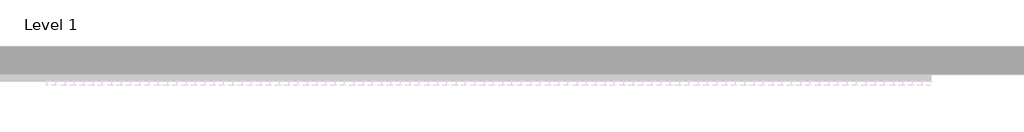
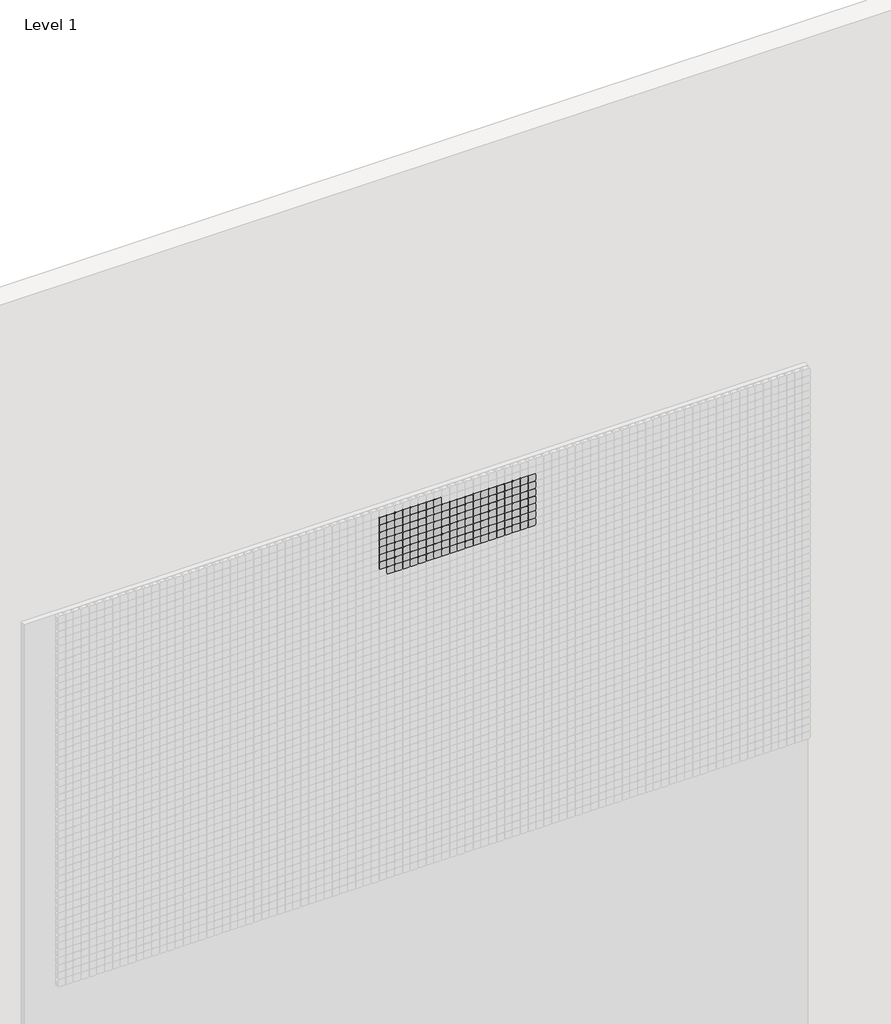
# One storey, part 35 of 71: 147 proxies.
"""IFC4 building model written with IfcOpenShell, lengths in millimetres."""

from ifc_helpers import new_model, si_unit, origin, place, context, project, spatial, transform, mapped, element, save
from components import generic_models_afde289c

model = new_model("IFC4")

# Units and contexts
model_context = context("Model", 3, world=origin())
ifc_project = project(units=[si_unit("LENGTHUNIT", "METRE", prefix="MILLI")], contexts=[model_context])

# Site, building, storey
site = spatial("IfcSite", under=ifc_project)
building = spatial("IfcBuilding", under=site)
storey = spatial("IfcBuildingStorey", under=building, Name="Level 1", Elevation=0.0)

# Proxies
placement = place(None, origin())
generic_models_shape = generic_models_afde289c(model_context)
element("IfcBuildingElementProxy", 1, Name="Pixel_M : Pixel_M", ObjectType="Pixel_M : Pixel_M", at=placement, inside=storey, context=model_context, shape_type="MappedRepresentation", body=[
    mapped(generic_models_shape, transform((7362.4280941, -75.0, 5916.3566215), x_axis=(1.0, 0.0, 0.0), y_axis=(0.0, 0.0, 1.0), z_axis=(0.0, -1.0, 0.0))),
])
element("IfcBuildingElementProxy", 2, Name="Pixel_M : Pixel_M", ObjectType="Pixel_M : Pixel_M", at=placement, inside=storey, context=model_context, shape_type="MappedRepresentation", body=[
    mapped(generic_models_shape, transform((7312.4280941, -75.0, 5916.3566215), x_axis=(1.0, 0.0, 0.0), y_axis=(0.0, 0.0, 1.0), z_axis=(0.0, -1.0, 0.0))),
])
element("IfcBuildingElementProxy", 3, Name="Pixel_M : Pixel_M", ObjectType="Pixel_M : Pixel_M", at=placement, inside=storey, context=model_context, shape_type="MappedRepresentation", body=[
    mapped(generic_models_shape, transform((7262.4280941, -75.0, 5916.3566215), x_axis=(1.0, 0.0, 0.0), y_axis=(0.0, 0.0, 1.0), z_axis=(0.0, -1.0, 0.0))),
])
element("IfcBuildingElementProxy", 4, Name="Pixel_M : Pixel_M", ObjectType="Pixel_M : Pixel_M", at=placement, inside=storey, context=model_context, shape_type="MappedRepresentation", body=[
    mapped(generic_models_shape, transform((7212.4280941, -75.0, 5916.3566215), x_axis=(1.0, 0.0, 0.0), y_axis=(0.0, 0.0, 1.0), z_axis=(0.0, -1.0, 0.0))),
])
element("IfcBuildingElementProxy", 5, Name="Pixel_M : Pixel_M", ObjectType="Pixel_M : Pixel_M", at=placement, inside=storey, context=model_context, shape_type="MappedRepresentation", body=[
    mapped(generic_models_shape, transform((7162.4280941, -75.0, 5916.3566215), x_axis=(1.0, 0.0, 0.0), y_axis=(0.0, 0.0, 1.0), z_axis=(0.0, -1.0, 0.0))),
])
element("IfcBuildingElementProxy", 6, Name="Pixel_M : Pixel_M", ObjectType="Pixel_M : Pixel_M", at=placement, inside=storey, context=model_context, shape_type="MappedRepresentation", body=[
    mapped(generic_models_shape, transform((7112.4280941, -75.0, 5916.3566215), x_axis=(1.0, 0.0, 0.0), y_axis=(0.0, 0.0, 1.0), z_axis=(0.0, -1.0, 0.0))),
])
element("IfcBuildingElementProxy", 7, Name="Pixel_M : Pixel_M", ObjectType="Pixel_M : Pixel_M", at=placement, inside=storey, context=model_context, shape_type="MappedRepresentation", body=[
    mapped(generic_models_shape, transform((7062.4280941, -75.0, 5916.3566215), x_axis=(1.0, 0.0, 0.0), y_axis=(0.0, 0.0, 1.0), z_axis=(0.0, -1.0, 0.0))),
])
element("IfcBuildingElementProxy", 8, Name="Pixel_M : Pixel_M", ObjectType="Pixel_M : Pixel_M", at=placement, inside=storey, context=model_context, shape_type="MappedRepresentation", body=[
    mapped(generic_models_shape, transform((7012.4280941, -75.0, 5916.3566215), x_axis=(1.0, 0.0, 0.0), y_axis=(0.0, 0.0, 1.0), z_axis=(0.0, -1.0, 0.0))),
])
element("IfcBuildingElementProxy", 9, Name="Pixel_M : Pixel_M", ObjectType="Pixel_M : Pixel_M", at=placement, inside=storey, context=model_context, shape_type="MappedRepresentation", body=[
    mapped(generic_models_shape, transform((7962.4280941, -75.0, 5866.3566215), x_axis=(1.0, 0.0, 0.0), y_axis=(0.0, 0.0, 1.0), z_axis=(0.0, -1.0, 0.0))),
])
element("IfcBuildingElementProxy", 10, Name="Pixel_M : Pixel_M", ObjectType="Pixel_M : Pixel_M", at=placement, inside=storey, context=model_context, shape_type="MappedRepresentation", body=[
    mapped(generic_models_shape, transform((7912.4280941, -75.0, 5866.3566215), x_axis=(1.0, 0.0, 0.0), y_axis=(0.0, 0.0, 1.0), z_axis=(0.0, -1.0, 0.0))),
])
element("IfcBuildingElementProxy", 11, Name="Pixel_M : Pixel_M", ObjectType="Pixel_M : Pixel_M", at=placement, inside=storey, context=model_context, shape_type="MappedRepresentation", body=[
    mapped(generic_models_shape, transform((7862.4280941, -75.0, 5866.3566215), x_axis=(1.0, 0.0, 0.0), y_axis=(0.0, 0.0, 1.0), z_axis=(0.0, -1.0, 0.0))),
])
element("IfcBuildingElementProxy", 12, Name="Pixel_M : Pixel_M", ObjectType="Pixel_M : Pixel_M", at=placement, inside=storey, context=model_context, shape_type="MappedRepresentation", body=[
    mapped(generic_models_shape, transform((7812.4280941, -75.0, 5866.3566215), x_axis=(1.0, 0.0, 0.0), y_axis=(0.0, 0.0, 1.0), z_axis=(0.0, -1.0, 0.0))),
])
element("IfcBuildingElementProxy", 13, Name="Pixel_M : Pixel_M", ObjectType="Pixel_M : Pixel_M", at=placement, inside=storey, context=model_context, shape_type="MappedRepresentation", body=[
    mapped(generic_models_shape, transform((7762.4280941, -75.0, 5866.3566215), x_axis=(1.0, 0.0, 0.0), y_axis=(0.0, 0.0, 1.0), z_axis=(0.0, -1.0, 0.0))),
])
element("IfcBuildingElementProxy", 14, Name="Pixel_M : Pixel_M", ObjectType="Pixel_M : Pixel_M", at=placement, inside=storey, context=model_context, shape_type="MappedRepresentation", body=[
    mapped(generic_models_shape, transform((7712.4280941, -75.0, 5866.3566215), x_axis=(1.0, 0.0, 0.0), y_axis=(0.0, 0.0, 1.0), z_axis=(0.0, -1.0, 0.0))),
])
element("IfcBuildingElementProxy", 15, Name="Pixel_M : Pixel_M", ObjectType="Pixel_M : Pixel_M", at=placement, inside=storey, context=model_context, shape_type="MappedRepresentation", body=[
    mapped(generic_models_shape, transform((7662.4280941, -75.0, 5866.3566215), x_axis=(1.0, 0.0, 0.0), y_axis=(0.0, 0.0, 1.0), z_axis=(0.0, -1.0, 0.0))),
])
element("IfcBuildingElementProxy", 16, Name="Pixel_M : Pixel_M", ObjectType="Pixel_M : Pixel_M", at=placement, inside=storey, context=model_context, shape_type="MappedRepresentation", body=[
    mapped(generic_models_shape, transform((7612.4280941, -75.0, 5866.3566215), x_axis=(1.0, 0.0, 0.0), y_axis=(0.0, 0.0, 1.0), z_axis=(0.0, -1.0, 0.0))),
])
element("IfcBuildingElementProxy", 17, Name="Pixel_M : Pixel_M", ObjectType="Pixel_M : Pixel_M", at=placement, inside=storey, context=model_context, shape_type="MappedRepresentation", body=[
    mapped(generic_models_shape, transform((7562.4280941, -75.0, 5866.3566215), x_axis=(1.0, 0.0, 0.0), y_axis=(0.0, 0.0, 1.0), z_axis=(0.0, -1.0, 0.0))),
])
element("IfcBuildingElementProxy", 18, Name="Pixel_M : Pixel_M", ObjectType="Pixel_M : Pixel_M", at=placement, inside=storey, context=model_context, shape_type="MappedRepresentation", body=[
    mapped(generic_models_shape, transform((7512.4280941, -75.0, 5866.3566215), x_axis=(1.0, 0.0, 0.0), y_axis=(0.0, 0.0, 1.0), z_axis=(0.0, -1.0, 0.0))),
])
element("IfcBuildingElementProxy", 19, Name="Pixel_M : Pixel_M", ObjectType="Pixel_M : Pixel_M", at=placement, inside=storey, context=model_context, shape_type="MappedRepresentation", body=[
    mapped(generic_models_shape, transform((7462.4280941, -75.0, 5866.3566215), x_axis=(1.0, 0.0, 0.0), y_axis=(0.0, 0.0, 1.0), z_axis=(0.0, -1.0, 0.0))),
])
element("IfcBuildingElementProxy", 20, Name="Pixel_M : Pixel_M", ObjectType="Pixel_M : Pixel_M", at=placement, inside=storey, context=model_context, shape_type="MappedRepresentation", body=[
    mapped(generic_models_shape, transform((7412.4280941, -75.0, 5866.3566215), x_axis=(1.0, 0.0, 0.0), y_axis=(0.0, 0.0, 1.0), z_axis=(0.0, -1.0, 0.0))),
])
element("IfcBuildingElementProxy", 21, Name="Pixel_M : Pixel_M", ObjectType="Pixel_M : Pixel_M", at=placement, inside=storey, context=model_context, shape_type="MappedRepresentation", body=[
    mapped(generic_models_shape, transform((7362.4280941, -75.0, 5866.3566215), x_axis=(1.0, 0.0, 0.0), y_axis=(0.0, 0.0, 1.0), z_axis=(0.0, -1.0, 0.0))),
])
element("IfcBuildingElementProxy", 22, Name="Pixel_M : Pixel_M", ObjectType="Pixel_M : Pixel_M", at=placement, inside=storey, context=model_context, shape_type="MappedRepresentation", body=[
    mapped(generic_models_shape, transform((7312.4280941, -75.0, 5866.3566215), x_axis=(1.0, 0.0, 0.0), y_axis=(0.0, 0.0, 1.0), z_axis=(0.0, -1.0, 0.0))),
])
element("IfcBuildingElementProxy", 23, Name="Pixel_M : Pixel_M", ObjectType="Pixel_M : Pixel_M", at=placement, inside=storey, context=model_context, shape_type="MappedRepresentation", body=[
    mapped(generic_models_shape, transform((7262.4280941, -75.0, 5866.3566215), x_axis=(1.0, 0.0, 0.0), y_axis=(0.0, 0.0, 1.0), z_axis=(0.0, -1.0, 0.0))),
])
element("IfcBuildingElementProxy", 24, Name="Pixel_M : Pixel_M", ObjectType="Pixel_M : Pixel_M", at=placement, inside=storey, context=model_context, shape_type="MappedRepresentation", body=[
    mapped(generic_models_shape, transform((7212.4280941, -75.0, 5866.3566215), x_axis=(1.0, 0.0, 0.0), y_axis=(0.0, 0.0, 1.0), z_axis=(0.0, -1.0, 0.0))),
])
element("IfcBuildingElementProxy", 25, Name="Pixel_M : Pixel_M", ObjectType="Pixel_M : Pixel_M", at=placement, inside=storey, context=model_context, shape_type="MappedRepresentation", body=[
    mapped(generic_models_shape, transform((7162.4280941, -75.0, 5866.3566215), x_axis=(1.0, 0.0, 0.0), y_axis=(0.0, 0.0, 1.0), z_axis=(0.0, -1.0, 0.0))),
])
element("IfcBuildingElementProxy", 26, Name="Pixel_M : Pixel_M", ObjectType="Pixel_M : Pixel_M", at=placement, inside=storey, context=model_context, shape_type="MappedRepresentation", body=[
    mapped(generic_models_shape, transform((7112.4280941, -75.0, 5866.3566215), x_axis=(1.0, 0.0, 0.0), y_axis=(0.0, 0.0, 1.0), z_axis=(0.0, -1.0, 0.0))),
])
element("IfcBuildingElementProxy", 27, Name="Pixel_M : Pixel_M", ObjectType="Pixel_M : Pixel_M", at=placement, inside=storey, context=model_context, shape_type="MappedRepresentation", body=[
    mapped(generic_models_shape, transform((7062.4280941, -75.0, 5866.3566215), x_axis=(1.0, 0.0, 0.0), y_axis=(0.0, 0.0, 1.0), z_axis=(0.0, -1.0, 0.0))),
])
element("IfcBuildingElementProxy", 28, Name="Pixel_M : Pixel_M", ObjectType="Pixel_M : Pixel_M", at=placement, inside=storey, context=model_context, shape_type="MappedRepresentation", body=[
    mapped(generic_models_shape, transform((7012.4280941, -75.0, 5866.3566215), x_axis=(1.0, 0.0, 0.0), y_axis=(0.0, 0.0, 1.0), z_axis=(0.0, -1.0, 0.0))),
])
element("IfcBuildingElementProxy", 29, Name="Pixel_M : Pixel_M", ObjectType="Pixel_M : Pixel_M", at=placement, inside=storey, context=model_context, shape_type="MappedRepresentation", body=[
    mapped(generic_models_shape, transform((7962.4280941, -75.0, 5816.3566215), x_axis=(1.0, 0.0, 0.0), y_axis=(0.0, 0.0, 1.0), z_axis=(0.0, -1.0, 0.0))),
])
element("IfcBuildingElementProxy", 30, Name="Pixel_M : Pixel_M", ObjectType="Pixel_M : Pixel_M", at=placement, inside=storey, context=model_context, shape_type="MappedRepresentation", body=[
    mapped(generic_models_shape, transform((7912.4280941, -75.0, 5816.3566215), x_axis=(1.0, 0.0, 0.0), y_axis=(0.0, 0.0, 1.0), z_axis=(0.0, -1.0, 0.0))),
])
element("IfcBuildingElementProxy", 31, Name="Pixel_M : Pixel_M", ObjectType="Pixel_M : Pixel_M", at=placement, inside=storey, context=model_context, shape_type="MappedRepresentation", body=[
    mapped(generic_models_shape, transform((7862.4280941, -75.0, 5816.3566215), x_axis=(1.0, 0.0, 0.0), y_axis=(0.0, 0.0, 1.0), z_axis=(0.0, -1.0, 0.0))),
])
element("IfcBuildingElementProxy", 32, Name="Pixel_M : Pixel_M", ObjectType="Pixel_M : Pixel_M", at=placement, inside=storey, context=model_context, shape_type="MappedRepresentation", body=[
    mapped(generic_models_shape, transform((7812.4280941, -75.0, 5816.3566215), x_axis=(1.0, 0.0, 0.0), y_axis=(0.0, 0.0, 1.0), z_axis=(0.0, -1.0, 0.0))),
])
element("IfcBuildingElementProxy", 33, Name="Pixel_M : Pixel_M", ObjectType="Pixel_M : Pixel_M", at=placement, inside=storey, context=model_context, shape_type="MappedRepresentation", body=[
    mapped(generic_models_shape, transform((7762.4280941, -75.0, 5816.3566215), x_axis=(1.0, 0.0, 0.0), y_axis=(0.0, 0.0, 1.0), z_axis=(0.0, -1.0, 0.0))),
])
element("IfcBuildingElementProxy", 34, Name="Pixel_M : Pixel_M", ObjectType="Pixel_M : Pixel_M", at=placement, inside=storey, context=model_context, shape_type="MappedRepresentation", body=[
    mapped(generic_models_shape, transform((7712.4280941, -75.0, 5816.3566215), x_axis=(1.0, 0.0, 0.0), y_axis=(0.0, 0.0, 1.0), z_axis=(0.0, -1.0, 0.0))),
])
element("IfcBuildingElementProxy", 35, Name="Pixel_M : Pixel_M", ObjectType="Pixel_M : Pixel_M", at=placement, inside=storey, context=model_context, shape_type="MappedRepresentation", body=[
    mapped(generic_models_shape, transform((7662.4280941, -75.0, 5816.3566215), x_axis=(1.0, 0.0, 0.0), y_axis=(0.0, 0.0, 1.0), z_axis=(0.0, -1.0, 0.0))),
])
element("IfcBuildingElementProxy", 36, Name="Pixel_M : Pixel_M", ObjectType="Pixel_M : Pixel_M", at=placement, inside=storey, context=model_context, shape_type="MappedRepresentation", body=[
    mapped(generic_models_shape, transform((7612.4280941, -75.0, 5816.3566215), x_axis=(1.0, 0.0, 0.0), y_axis=(0.0, 0.0, 1.0), z_axis=(0.0, -1.0, 0.0))),
])
element("IfcBuildingElementProxy", 37, Name="Pixel_M : Pixel_M", ObjectType="Pixel_M : Pixel_M", at=placement, inside=storey, context=model_context, shape_type="MappedRepresentation", body=[
    mapped(generic_models_shape, transform((7562.4280941, -75.0, 5816.3566215), x_axis=(1.0, 0.0, 0.0), y_axis=(0.0, 0.0, 1.0), z_axis=(0.0, -1.0, 0.0))),
])
element("IfcBuildingElementProxy", 38, Name="Pixel_M : Pixel_M", ObjectType="Pixel_M : Pixel_M", at=placement, inside=storey, context=model_context, shape_type="MappedRepresentation", body=[
    mapped(generic_models_shape, transform((7512.4280941, -75.0, 5816.3566215), x_axis=(1.0, 0.0, 0.0), y_axis=(0.0, 0.0, 1.0), z_axis=(0.0, -1.0, 0.0))),
])
element("IfcBuildingElementProxy", 39, Name="Pixel_M : Pixel_M", ObjectType="Pixel_M : Pixel_M", at=placement, inside=storey, context=model_context, shape_type="MappedRepresentation", body=[
    mapped(generic_models_shape, transform((7462.4280941, -75.0, 5816.3566215), x_axis=(1.0, 0.0, 0.0), y_axis=(0.0, 0.0, 1.0), z_axis=(0.0, -1.0, 0.0))),
])
element("IfcBuildingElementProxy", 40, Name="Pixel_M : Pixel_M", ObjectType="Pixel_M : Pixel_M", at=placement, inside=storey, context=model_context, shape_type="MappedRepresentation", body=[
    mapped(generic_models_shape, transform((7412.4280941, -75.0, 5816.3566215), x_axis=(1.0, 0.0, 0.0), y_axis=(0.0, 0.0, 1.0), z_axis=(0.0, -1.0, 0.0))),
])
element("IfcBuildingElementProxy", 41, Name="Pixel_M : Pixel_M", ObjectType="Pixel_M : Pixel_M", at=placement, inside=storey, context=model_context, shape_type="MappedRepresentation", body=[
    mapped(generic_models_shape, transform((7362.4280941, -75.0, 5816.3566215), x_axis=(1.0, 0.0, 0.0), y_axis=(0.0, 0.0, 1.0), z_axis=(0.0, -1.0, 0.0))),
])
element("IfcBuildingElementProxy", 42, Name="Pixel_M : Pixel_M", ObjectType="Pixel_M : Pixel_M", at=placement, inside=storey, context=model_context, shape_type="MappedRepresentation", body=[
    mapped(generic_models_shape, transform((7312.4280941, -75.0, 5816.3566215), x_axis=(1.0, 0.0, 0.0), y_axis=(0.0, 0.0, 1.0), z_axis=(0.0, -1.0, 0.0))),
])
element("IfcBuildingElementProxy", 43, Name="Pixel_M : Pixel_M", ObjectType="Pixel_M : Pixel_M", at=placement, inside=storey, context=model_context, shape_type="MappedRepresentation", body=[
    mapped(generic_models_shape, transform((7262.4280941, -75.0, 5816.3566215), x_axis=(1.0, 0.0, 0.0), y_axis=(0.0, 0.0, 1.0), z_axis=(0.0, -1.0, 0.0))),
])
element("IfcBuildingElementProxy", 44, Name="Pixel_M : Pixel_M", ObjectType="Pixel_M : Pixel_M", at=placement, inside=storey, context=model_context, shape_type="MappedRepresentation", body=[
    mapped(generic_models_shape, transform((7212.4280941, -75.0, 5816.3566215), x_axis=(1.0, 0.0, 0.0), y_axis=(0.0, 0.0, 1.0), z_axis=(0.0, -1.0, 0.0))),
])
element("IfcBuildingElementProxy", 45, Name="Pixel_M : Pixel_M", ObjectType="Pixel_M : Pixel_M", at=placement, inside=storey, context=model_context, shape_type="MappedRepresentation", body=[
    mapped(generic_models_shape, transform((7162.4280941, -75.0, 5816.3566215), x_axis=(1.0, 0.0, 0.0), y_axis=(0.0, 0.0, 1.0), z_axis=(0.0, -1.0, 0.0))),
])
element("IfcBuildingElementProxy", 46, Name="Pixel_M : Pixel_M", ObjectType="Pixel_M : Pixel_M", at=placement, inside=storey, context=model_context, shape_type="MappedRepresentation", body=[
    mapped(generic_models_shape, transform((7112.4280941, -75.0, 5816.3566215), x_axis=(1.0, 0.0, 0.0), y_axis=(0.0, 0.0, 1.0), z_axis=(0.0, -1.0, 0.0))),
])
element("IfcBuildingElementProxy", 47, Name="Pixel_M : Pixel_M", ObjectType="Pixel_M : Pixel_M", at=placement, inside=storey, context=model_context, shape_type="MappedRepresentation", body=[
    mapped(generic_models_shape, transform((7062.4280941, -75.0, 5816.3566215), x_axis=(1.0, 0.0, 0.0), y_axis=(0.0, 0.0, 1.0), z_axis=(0.0, -1.0, 0.0))),
])
element("IfcBuildingElementProxy", 48, Name="Pixel_M : Pixel_M", ObjectType="Pixel_M : Pixel_M", at=placement, inside=storey, context=model_context, shape_type="MappedRepresentation", body=[
    mapped(generic_models_shape, transform((7012.4280941, -75.0, 5816.3566215), x_axis=(1.0, 0.0, 0.0), y_axis=(0.0, 0.0, 1.0), z_axis=(0.0, -1.0, 0.0))),
])
element("IfcBuildingElementProxy", 49, Name="Pixel_M : Pixel_M", ObjectType="Pixel_M : Pixel_M", at=placement, inside=storey, context=model_context, shape_type="MappedRepresentation", body=[
    mapped(generic_models_shape, transform((7962.4280941, -75.0, 5766.3566215), x_axis=(1.0, 0.0, 0.0), y_axis=(0.0, 0.0, 1.0), z_axis=(0.0, -1.0, 0.0))),
])
element("IfcBuildingElementProxy", 50, Name="Pixel_M : Pixel_M", ObjectType="Pixel_M : Pixel_M", at=placement, inside=storey, context=model_context, shape_type="MappedRepresentation", body=[
    mapped(generic_models_shape, transform((7912.4280941, -75.0, 5766.3566215), x_axis=(1.0, 0.0, 0.0), y_axis=(0.0, 0.0, 1.0), z_axis=(0.0, -1.0, 0.0))),
])
element("IfcBuildingElementProxy", 51, Name="Pixel_M : Pixel_M", ObjectType="Pixel_M : Pixel_M", at=placement, inside=storey, context=model_context, shape_type="MappedRepresentation", body=[
    mapped(generic_models_shape, transform((7862.4280941, -75.0, 5766.3566215), x_axis=(1.0, 0.0, 0.0), y_axis=(0.0, 0.0, 1.0), z_axis=(0.0, -1.0, 0.0))),
])
element("IfcBuildingElementProxy", 52, Name="Pixel_M : Pixel_M", ObjectType="Pixel_M : Pixel_M", at=placement, inside=storey, context=model_context, shape_type="MappedRepresentation", body=[
    mapped(generic_models_shape, transform((7812.4280941, -75.0, 5766.3566215), x_axis=(1.0, 0.0, 0.0), y_axis=(0.0, 0.0, 1.0), z_axis=(0.0, -1.0, 0.0))),
])
element("IfcBuildingElementProxy", 53, Name="Pixel_M : Pixel_M", ObjectType="Pixel_M : Pixel_M", at=placement, inside=storey, context=model_context, shape_type="MappedRepresentation", body=[
    mapped(generic_models_shape, transform((7762.4280941, -75.0, 5766.3566215), x_axis=(1.0, 0.0, 0.0), y_axis=(0.0, 0.0, 1.0), z_axis=(0.0, -1.0, 0.0))),
])
element("IfcBuildingElementProxy", 54, Name="Pixel_M : Pixel_M", ObjectType="Pixel_M : Pixel_M", at=placement, inside=storey, context=model_context, shape_type="MappedRepresentation", body=[
    mapped(generic_models_shape, transform((7712.4280941, -75.0, 5766.3566215), x_axis=(1.0, 0.0, 0.0), y_axis=(0.0, 0.0, 1.0), z_axis=(0.0, -1.0, 0.0))),
])
element("IfcBuildingElementProxy", 55, Name="Pixel_M : Pixel_M", ObjectType="Pixel_M : Pixel_M", at=placement, inside=storey, context=model_context, shape_type="MappedRepresentation", body=[
    mapped(generic_models_shape, transform((7662.4280941, -75.0, 5766.3566215), x_axis=(1.0, 0.0, 0.0), y_axis=(0.0, 0.0, 1.0), z_axis=(0.0, -1.0, 0.0))),
])
element("IfcBuildingElementProxy", 56, Name="Pixel_M : Pixel_M", ObjectType="Pixel_M : Pixel_M", at=placement, inside=storey, context=model_context, shape_type="MappedRepresentation", body=[
    mapped(generic_models_shape, transform((7612.4280941, -75.0, 5766.3566215), x_axis=(1.0, 0.0, 0.0), y_axis=(0.0, 0.0, 1.0), z_axis=(0.0, -1.0, 0.0))),
])
element("IfcBuildingElementProxy", 57, Name="Pixel_M : Pixel_M", ObjectType="Pixel_M : Pixel_M", at=placement, inside=storey, context=model_context, shape_type="MappedRepresentation", body=[
    mapped(generic_models_shape, transform((7562.4280941, -75.0, 5766.3566215), x_axis=(1.0, 0.0, 0.0), y_axis=(0.0, 0.0, 1.0), z_axis=(0.0, -1.0, 0.0))),
])
element("IfcBuildingElementProxy", 58, Name="Pixel_M : Pixel_M", ObjectType="Pixel_M : Pixel_M", at=placement, inside=storey, context=model_context, shape_type="MappedRepresentation", body=[
    mapped(generic_models_shape, transform((7512.4280941, -75.0, 5766.3566215), x_axis=(1.0, 0.0, 0.0), y_axis=(0.0, 0.0, 1.0), z_axis=(0.0, -1.0, 0.0))),
])
element("IfcBuildingElementProxy", 59, Name="Pixel_M : Pixel_M", ObjectType="Pixel_M : Pixel_M", at=placement, inside=storey, context=model_context, shape_type="MappedRepresentation", body=[
    mapped(generic_models_shape, transform((7462.4280941, -75.0, 5766.3566215), x_axis=(1.0, 0.0, 0.0), y_axis=(0.0, 0.0, 1.0), z_axis=(0.0, -1.0, 0.0))),
])
element("IfcBuildingElementProxy", 60, Name="Pixel_M : Pixel_M", ObjectType="Pixel_M : Pixel_M", at=placement, inside=storey, context=model_context, shape_type="MappedRepresentation", body=[
    mapped(generic_models_shape, transform((7412.4280941, -75.0, 5766.3566215), x_axis=(1.0, 0.0, 0.0), y_axis=(0.0, 0.0, 1.0), z_axis=(0.0, -1.0, 0.0))),
])
element("IfcBuildingElementProxy", 61, Name="Pixel_M : Pixel_M", ObjectType="Pixel_M : Pixel_M", at=placement, inside=storey, context=model_context, shape_type="MappedRepresentation", body=[
    mapped(generic_models_shape, transform((7362.4280941, -75.0, 5766.3566215), x_axis=(1.0, 0.0, 0.0), y_axis=(0.0, 0.0, 1.0), z_axis=(0.0, -1.0, 0.0))),
])
element("IfcBuildingElementProxy", 62, Name="Pixel_M : Pixel_M", ObjectType="Pixel_M : Pixel_M", at=placement, inside=storey, context=model_context, shape_type="MappedRepresentation", body=[
    mapped(generic_models_shape, transform((7312.4280941, -75.0, 5766.3566215), x_axis=(1.0, 0.0, 0.0), y_axis=(0.0, 0.0, 1.0), z_axis=(0.0, -1.0, 0.0))),
])
element("IfcBuildingElementProxy", 63, Name="Pixel_M : Pixel_M", ObjectType="Pixel_M : Pixel_M", at=placement, inside=storey, context=model_context, shape_type="MappedRepresentation", body=[
    mapped(generic_models_shape, transform((7262.4280941, -75.0, 5766.3566215), x_axis=(1.0, 0.0, 0.0), y_axis=(0.0, 0.0, 1.0), z_axis=(0.0, -1.0, 0.0))),
])
element("IfcBuildingElementProxy", 64, Name="Pixel_M : Pixel_M", ObjectType="Pixel_M : Pixel_M", at=placement, inside=storey, context=model_context, shape_type="MappedRepresentation", body=[
    mapped(generic_models_shape, transform((7212.4280941, -75.0, 5766.3566215), x_axis=(1.0, 0.0, 0.0), y_axis=(0.0, 0.0, 1.0), z_axis=(0.0, -1.0, 0.0))),
])
element("IfcBuildingElementProxy", 65, Name="Pixel_M : Pixel_M", ObjectType="Pixel_M : Pixel_M", at=placement, inside=storey, context=model_context, shape_type="MappedRepresentation", body=[
    mapped(generic_models_shape, transform((7162.4280941, -75.0, 5766.3566215), x_axis=(1.0, 0.0, 0.0), y_axis=(0.0, 0.0, 1.0), z_axis=(0.0, -1.0, 0.0))),
])
element("IfcBuildingElementProxy", 66, Name="Pixel_M : Pixel_M", ObjectType="Pixel_M : Pixel_M", at=placement, inside=storey, context=model_context, shape_type="MappedRepresentation", body=[
    mapped(generic_models_shape, transform((7112.4280941, -75.0, 5766.3566215), x_axis=(1.0, 0.0, 0.0), y_axis=(0.0, 0.0, 1.0), z_axis=(0.0, -1.0, 0.0))),
])
element("IfcBuildingElementProxy", 67, Name="Pixel_M : Pixel_M", ObjectType="Pixel_M : Pixel_M", at=placement, inside=storey, context=model_context, shape_type="MappedRepresentation", body=[
    mapped(generic_models_shape, transform((7062.4280941, -75.0, 5766.3566215), x_axis=(1.0, 0.0, 0.0), y_axis=(0.0, 0.0, 1.0), z_axis=(0.0, -1.0, 0.0))),
])
element("IfcBuildingElementProxy", 68, Name="Pixel_M : Pixel_M", ObjectType="Pixel_M : Pixel_M", at=placement, inside=storey, context=model_context, shape_type="MappedRepresentation", body=[
    mapped(generic_models_shape, transform((7012.4280941, -75.0, 5766.3566215), x_axis=(1.0, 0.0, 0.0), y_axis=(0.0, 0.0, 1.0), z_axis=(0.0, -1.0, 0.0))),
])
element("IfcBuildingElementProxy", 69, Name="Pixel_M : Pixel_M", ObjectType="Pixel_M : Pixel_M", at=placement, inside=storey, context=model_context, shape_type="MappedRepresentation", body=[
    mapped(generic_models_shape, transform((7962.4280941, -75.0, 5716.3566215), x_axis=(1.0, 0.0, 0.0), y_axis=(0.0, 0.0, 1.0), z_axis=(0.0, -1.0, 0.0))),
])
element("IfcBuildingElementProxy", 70, Name="Pixel_M : Pixel_M", ObjectType="Pixel_M : Pixel_M", at=placement, inside=storey, context=model_context, shape_type="MappedRepresentation", body=[
    mapped(generic_models_shape, transform((7912.4280941, -75.0, 5716.3566215), x_axis=(1.0, 0.0, 0.0), y_axis=(0.0, 0.0, 1.0), z_axis=(0.0, -1.0, 0.0))),
])
element("IfcBuildingElementProxy", 71, Name="Pixel_M : Pixel_M", ObjectType="Pixel_M : Pixel_M", at=placement, inside=storey, context=model_context, shape_type="MappedRepresentation", body=[
    mapped(generic_models_shape, transform((7862.4280941, -75.0, 5716.3566215), x_axis=(1.0, 0.0, 0.0), y_axis=(0.0, 0.0, 1.0), z_axis=(0.0, -1.0, 0.0))),
])
element("IfcBuildingElementProxy", 72, Name="Pixel_M : Pixel_M", ObjectType="Pixel_M : Pixel_M", at=placement, inside=storey, context=model_context, shape_type="MappedRepresentation", body=[
    mapped(generic_models_shape, transform((7812.4280941, -75.0, 5716.3566215), x_axis=(1.0, 0.0, 0.0), y_axis=(0.0, 0.0, 1.0), z_axis=(0.0, -1.0, 0.0))),
])
element("IfcBuildingElementProxy", 73, Name="Pixel_M : Pixel_M", ObjectType="Pixel_M : Pixel_M", at=placement, inside=storey, context=model_context, shape_type="MappedRepresentation", body=[
    mapped(generic_models_shape, transform((7762.4280941, -75.0, 5716.3566215), x_axis=(1.0, 0.0, 0.0), y_axis=(0.0, 0.0, 1.0), z_axis=(0.0, -1.0, 0.0))),
])
element("IfcBuildingElementProxy", 74, Name="Pixel_M : Pixel_M", ObjectType="Pixel_M : Pixel_M", at=placement, inside=storey, context=model_context, shape_type="MappedRepresentation", body=[
    mapped(generic_models_shape, transform((7712.4280941, -75.0, 5716.3566215), x_axis=(1.0, 0.0, 0.0), y_axis=(0.0, 0.0, 1.0), z_axis=(0.0, -1.0, 0.0))),
])
element("IfcBuildingElementProxy", 75, Name="Pixel_M : Pixel_M", ObjectType="Pixel_M : Pixel_M", at=placement, inside=storey, context=model_context, shape_type="MappedRepresentation", body=[
    mapped(generic_models_shape, transform((7662.4280941, -75.0, 5716.3566215), x_axis=(1.0, 0.0, 0.0), y_axis=(0.0, 0.0, 1.0), z_axis=(0.0, -1.0, 0.0))),
])
element("IfcBuildingElementProxy", 76, Name="Pixel_M : Pixel_M", ObjectType="Pixel_M : Pixel_M", at=placement, inside=storey, context=model_context, shape_type="MappedRepresentation", body=[
    mapped(generic_models_shape, transform((7612.4280941, -75.0, 5716.3566215), x_axis=(1.0, 0.0, 0.0), y_axis=(0.0, 0.0, 1.0), z_axis=(0.0, -1.0, 0.0))),
])
element("IfcBuildingElementProxy", 77, Name="Pixel_M : Pixel_M", ObjectType="Pixel_M : Pixel_M", at=placement, inside=storey, context=model_context, shape_type="MappedRepresentation", body=[
    mapped(generic_models_shape, transform((7562.4280941, -75.0, 5716.3566215), x_axis=(1.0, 0.0, 0.0), y_axis=(0.0, 0.0, 1.0), z_axis=(0.0, -1.0, 0.0))),
])
element("IfcBuildingElementProxy", 78, Name="Pixel_M : Pixel_M", ObjectType="Pixel_M : Pixel_M", at=placement, inside=storey, context=model_context, shape_type="MappedRepresentation", body=[
    mapped(generic_models_shape, transform((7512.4280941, -75.0, 5716.3566215), x_axis=(1.0, 0.0, 0.0), y_axis=(0.0, 0.0, 1.0), z_axis=(0.0, -1.0, 0.0))),
])
element("IfcBuildingElementProxy", 79, Name="Pixel_M : Pixel_M", ObjectType="Pixel_M : Pixel_M", at=placement, inside=storey, context=model_context, shape_type="MappedRepresentation", body=[
    mapped(generic_models_shape, transform((7462.4280941, -75.0, 5716.3566215), x_axis=(1.0, 0.0, 0.0), y_axis=(0.0, 0.0, 1.0), z_axis=(0.0, -1.0, 0.0))),
])
element("IfcBuildingElementProxy", 80, Name="Pixel_M : Pixel_M", ObjectType="Pixel_M : Pixel_M", at=placement, inside=storey, context=model_context, shape_type="MappedRepresentation", body=[
    mapped(generic_models_shape, transform((7412.4280941, -75.0, 5716.3566215), x_axis=(1.0, 0.0, 0.0), y_axis=(0.0, 0.0, 1.0), z_axis=(0.0, -1.0, 0.0))),
])
element("IfcBuildingElementProxy", 81, Name="Pixel_M : Pixel_M", ObjectType="Pixel_M : Pixel_M", at=placement, inside=storey, context=model_context, shape_type="MappedRepresentation", body=[
    mapped(generic_models_shape, transform((7362.4280941, -75.0, 5716.3566215), x_axis=(1.0, 0.0, 0.0), y_axis=(0.0, 0.0, 1.0), z_axis=(0.0, -1.0, 0.0))),
])
element("IfcBuildingElementProxy", 82, Name="Pixel_M : Pixel_M", ObjectType="Pixel_M : Pixel_M", at=placement, inside=storey, context=model_context, shape_type="MappedRepresentation", body=[
    mapped(generic_models_shape, transform((7312.4280941, -75.0, 5716.3566215), x_axis=(1.0, 0.0, 0.0), y_axis=(0.0, 0.0, 1.0), z_axis=(0.0, -1.0, 0.0))),
])
element("IfcBuildingElementProxy", 83, Name="Pixel_M : Pixel_M", ObjectType="Pixel_M : Pixel_M", at=placement, inside=storey, context=model_context, shape_type="MappedRepresentation", body=[
    mapped(generic_models_shape, transform((7262.4280941, -75.0, 5716.3566215), x_axis=(1.0, 0.0, 0.0), y_axis=(0.0, 0.0, 1.0), z_axis=(0.0, -1.0, 0.0))),
])
element("IfcBuildingElementProxy", 84, Name="Pixel_M : Pixel_M", ObjectType="Pixel_M : Pixel_M", at=placement, inside=storey, context=model_context, shape_type="MappedRepresentation", body=[
    mapped(generic_models_shape, transform((7212.4280941, -75.0, 5716.3566215), x_axis=(1.0, 0.0, 0.0), y_axis=(0.0, 0.0, 1.0), z_axis=(0.0, -1.0, 0.0))),
])
element("IfcBuildingElementProxy", 85, Name="Pixel_M : Pixel_M", ObjectType="Pixel_M : Pixel_M", at=placement, inside=storey, context=model_context, shape_type="MappedRepresentation", body=[
    mapped(generic_models_shape, transform((7162.4280941, -75.0, 5716.3566215), x_axis=(1.0, 0.0, 0.0), y_axis=(0.0, 0.0, 1.0), z_axis=(0.0, -1.0, 0.0))),
])
element("IfcBuildingElementProxy", 86, Name="Pixel_M : Pixel_M", ObjectType="Pixel_M : Pixel_M", at=placement, inside=storey, context=model_context, shape_type="MappedRepresentation", body=[
    mapped(generic_models_shape, transform((7112.4280941, -75.0, 5716.3566215), x_axis=(1.0, 0.0, 0.0), y_axis=(0.0, 0.0, 1.0), z_axis=(0.0, -1.0, 0.0))),
])
element("IfcBuildingElementProxy", 87, Name="Pixel_M : Pixel_M", ObjectType="Pixel_M : Pixel_M", at=placement, inside=storey, context=model_context, shape_type="MappedRepresentation", body=[
    mapped(generic_models_shape, transform((7062.4280941, -75.0, 5716.3566215), x_axis=(1.0, 0.0, 0.0), y_axis=(0.0, 0.0, 1.0), z_axis=(0.0, -1.0, 0.0))),
])
element("IfcBuildingElementProxy", 88, Name="Pixel_M : Pixel_M", ObjectType="Pixel_M : Pixel_M", at=placement, inside=storey, context=model_context, shape_type="MappedRepresentation", body=[
    mapped(generic_models_shape, transform((7012.4280941, -75.0, 5716.3566215), x_axis=(1.0, 0.0, 0.0), y_axis=(0.0, 0.0, 1.0), z_axis=(0.0, -1.0, 0.0))),
])
element("IfcBuildingElementProxy", 89, Name="Pixel_M : Pixel_M", ObjectType="Pixel_M : Pixel_M", at=placement, inside=storey, context=model_context, shape_type="MappedRepresentation", body=[
    mapped(generic_models_shape, transform((7962.4280941, -75.0, 5666.3566215), x_axis=(1.0, 0.0, 0.0), y_axis=(0.0, 0.0, 1.0), z_axis=(0.0, -1.0, 0.0))),
])
element("IfcBuildingElementProxy", 90, Name="Pixel_M : Pixel_M", ObjectType="Pixel_M : Pixel_M", at=placement, inside=storey, context=model_context, shape_type="MappedRepresentation", body=[
    mapped(generic_models_shape, transform((7912.4280941, -75.0, 5666.3566215), x_axis=(1.0, 0.0, 0.0), y_axis=(0.0, 0.0, 1.0), z_axis=(0.0, -1.0, 0.0))),
])
element("IfcBuildingElementProxy", 91, Name="Pixel_M : Pixel_M", ObjectType="Pixel_M : Pixel_M", at=placement, inside=storey, context=model_context, shape_type="MappedRepresentation", body=[
    mapped(generic_models_shape, transform((7862.4280941, -75.0, 5666.3566215), x_axis=(1.0, 0.0, 0.0), y_axis=(0.0, 0.0, 1.0), z_axis=(0.0, -1.0, 0.0))),
])
element("IfcBuildingElementProxy", 92, Name="Pixel_M : Pixel_M", ObjectType="Pixel_M : Pixel_M", at=placement, inside=storey, context=model_context, shape_type="MappedRepresentation", body=[
    mapped(generic_models_shape, transform((7812.4280941, -75.0, 5666.3566215), x_axis=(1.0, 0.0, 0.0), y_axis=(0.0, 0.0, 1.0), z_axis=(0.0, -1.0, 0.0))),
])
element("IfcBuildingElementProxy", 93, Name="Pixel_M : Pixel_M", ObjectType="Pixel_M : Pixel_M", at=placement, inside=storey, context=model_context, shape_type="MappedRepresentation", body=[
    mapped(generic_models_shape, transform((7762.4280941, -75.0, 5666.3566215), x_axis=(1.0, 0.0, 0.0), y_axis=(0.0, 0.0, 1.0), z_axis=(0.0, -1.0, 0.0))),
])
element("IfcBuildingElementProxy", 94, Name="Pixel_M : Pixel_M", ObjectType="Pixel_M : Pixel_M", at=placement, inside=storey, context=model_context, shape_type="MappedRepresentation", body=[
    mapped(generic_models_shape, transform((7712.4280941, -75.0, 5666.3566215), x_axis=(1.0, 0.0, 0.0), y_axis=(0.0, 0.0, 1.0), z_axis=(0.0, -1.0, 0.0))),
])
element("IfcBuildingElementProxy", 95, Name="Pixel_M : Pixel_M", ObjectType="Pixel_M : Pixel_M", at=placement, inside=storey, context=model_context, shape_type="MappedRepresentation", body=[
    mapped(generic_models_shape, transform((7662.4280941, -75.0, 5666.3566215), x_axis=(1.0, 0.0, 0.0), y_axis=(0.0, 0.0, 1.0), z_axis=(0.0, -1.0, 0.0))),
])
element("IfcBuildingElementProxy", 96, Name="Pixel_M : Pixel_M", ObjectType="Pixel_M : Pixel_M", at=placement, inside=storey, context=model_context, shape_type="MappedRepresentation", body=[
    mapped(generic_models_shape, transform((7612.4280941, -75.0, 5666.3566215), x_axis=(1.0, 0.0, 0.0), y_axis=(0.0, 0.0, 1.0), z_axis=(0.0, -1.0, 0.0))),
])
element("IfcBuildingElementProxy", 97, Name="Pixel_M : Pixel_M", ObjectType="Pixel_M : Pixel_M", at=placement, inside=storey, context=model_context, shape_type="MappedRepresentation", body=[
    mapped(generic_models_shape, transform((7562.4280941, -75.0, 5666.3566215), x_axis=(1.0, 0.0, 0.0), y_axis=(0.0, 0.0, 1.0), z_axis=(0.0, -1.0, 0.0))),
])
element("IfcBuildingElementProxy", 98, Name="Pixel_M : Pixel_M", ObjectType="Pixel_M : Pixel_M", at=placement, inside=storey, context=model_context, shape_type="MappedRepresentation", body=[
    mapped(generic_models_shape, transform((7512.4280941, -75.0, 5666.3566215), x_axis=(1.0, 0.0, 0.0), y_axis=(0.0, 0.0, 1.0), z_axis=(0.0, -1.0, 0.0))),
])
element("IfcBuildingElementProxy", 99, Name="Pixel_M : Pixel_M", ObjectType="Pixel_M : Pixel_M", at=placement, inside=storey, context=model_context, shape_type="MappedRepresentation", body=[
    mapped(generic_models_shape, transform((7462.4280941, -75.0, 5666.3566215), x_axis=(1.0, 0.0, 0.0), y_axis=(0.0, 0.0, 1.0), z_axis=(0.0, -1.0, 0.0))),
])
element("IfcBuildingElementProxy", 100, Name="Pixel_M : Pixel_M", ObjectType="Pixel_M : Pixel_M", at=placement, inside=storey, context=model_context, shape_type="MappedRepresentation", body=[
    mapped(generic_models_shape, transform((7412.4280941, -75.0, 5666.3566215), x_axis=(1.0, 0.0, 0.0), y_axis=(0.0, 0.0, 1.0), z_axis=(0.0, -1.0, 0.0))),
])
element("IfcBuildingElementProxy", 101, Name="Pixel_M : Pixel_M", ObjectType="Pixel_M : Pixel_M", at=placement, inside=storey, context=model_context, shape_type="MappedRepresentation", body=[
    mapped(generic_models_shape, transform((7362.4280941, -75.0, 5666.3566215), x_axis=(1.0, 0.0, 0.0), y_axis=(0.0, 0.0, 1.0), z_axis=(0.0, -1.0, 0.0))),
])
element("IfcBuildingElementProxy", 102, Name="Pixel_M : Pixel_M", ObjectType="Pixel_M : Pixel_M", at=placement, inside=storey, context=model_context, shape_type="MappedRepresentation", body=[
    mapped(generic_models_shape, transform((7312.4280941, -75.0, 5666.3566215), x_axis=(1.0, 0.0, 0.0), y_axis=(0.0, 0.0, 1.0), z_axis=(0.0, -1.0, 0.0))),
])
element("IfcBuildingElementProxy", 103, Name="Pixel_M : Pixel_M", ObjectType="Pixel_M : Pixel_M", at=placement, inside=storey, context=model_context, shape_type="MappedRepresentation", body=[
    mapped(generic_models_shape, transform((7262.4280941, -75.0, 5666.3566215), x_axis=(1.0, 0.0, 0.0), y_axis=(0.0, 0.0, 1.0), z_axis=(0.0, -1.0, 0.0))),
])
element("IfcBuildingElementProxy", 104, Name="Pixel_M : Pixel_M", ObjectType="Pixel_M : Pixel_M", at=placement, inside=storey, context=model_context, shape_type="MappedRepresentation", body=[
    mapped(generic_models_shape, transform((7212.4280941, -75.0, 5666.3566215), x_axis=(1.0, 0.0, 0.0), y_axis=(0.0, 0.0, 1.0), z_axis=(0.0, -1.0, 0.0))),
])
element("IfcBuildingElementProxy", 105, Name="Pixel_M : Pixel_M", ObjectType="Pixel_M : Pixel_M", at=placement, inside=storey, context=model_context, shape_type="MappedRepresentation", body=[
    mapped(generic_models_shape, transform((7162.4280941, -75.0, 5666.3566215), x_axis=(1.0, 0.0, 0.0), y_axis=(0.0, 0.0, 1.0), z_axis=(0.0, -1.0, 0.0))),
])
element("IfcBuildingElementProxy", 106, Name="Pixel_M : Pixel_M", ObjectType="Pixel_M : Pixel_M", at=placement, inside=storey, context=model_context, shape_type="MappedRepresentation", body=[
    mapped(generic_models_shape, transform((7112.4280941, -75.0, 5666.3566215), x_axis=(1.0, 0.0, 0.0), y_axis=(0.0, 0.0, 1.0), z_axis=(0.0, -1.0, 0.0))),
])
element("IfcBuildingElementProxy", 107, Name="Pixel_M : Pixel_M", ObjectType="Pixel_M : Pixel_M", at=placement, inside=storey, context=model_context, shape_type="MappedRepresentation", body=[
    mapped(generic_models_shape, transform((7062.4280941, -75.0, 5666.3566215), x_axis=(1.0, 0.0, 0.0), y_axis=(0.0, 0.0, 1.0), z_axis=(0.0, -1.0, 0.0))),
])
element("IfcBuildingElementProxy", 108, Name="Pixel_M : Pixel_M", ObjectType="Pixel_M : Pixel_M", at=placement, inside=storey, context=model_context, shape_type="MappedRepresentation", body=[
    mapped(generic_models_shape, transform((7012.4280941, -75.0, 5666.3566215), x_axis=(1.0, 0.0, 0.0), y_axis=(0.0, 0.0, 1.0), z_axis=(0.0, -1.0, 0.0))),
])
element("IfcBuildingElementProxy", 109, Name="Pixel_M : Pixel_M", ObjectType="Pixel_M : Pixel_M", at=placement, inside=storey, context=model_context, shape_type="MappedRepresentation", body=[
    mapped(generic_models_shape, transform((7962.4280941, -75.0, 5616.3566215), x_axis=(1.0, 0.0, 0.0), y_axis=(0.0, 0.0, 1.0), z_axis=(0.0, -1.0, 0.0))),
])
element("IfcBuildingElementProxy", 110, Name="Pixel_M : Pixel_M", ObjectType="Pixel_M : Pixel_M", at=placement, inside=storey, context=model_context, shape_type="MappedRepresentation", body=[
    mapped(generic_models_shape, transform((7912.4280941, -75.0, 5616.3566215), x_axis=(1.0, 0.0, 0.0), y_axis=(0.0, 0.0, 1.0), z_axis=(0.0, -1.0, 0.0))),
])
element("IfcBuildingElementProxy", 111, Name="Pixel_M : Pixel_M", ObjectType="Pixel_M : Pixel_M", at=placement, inside=storey, context=model_context, shape_type="MappedRepresentation", body=[
    mapped(generic_models_shape, transform((7862.4280941, -75.0, 5616.3566215), x_axis=(1.0, 0.0, 0.0), y_axis=(0.0, 0.0, 1.0), z_axis=(0.0, -1.0, 0.0))),
])
element("IfcBuildingElementProxy", 112, Name="Pixel_M : Pixel_M", ObjectType="Pixel_M : Pixel_M", at=placement, inside=storey, context=model_context, shape_type="MappedRepresentation", body=[
    mapped(generic_models_shape, transform((7812.4280941, -75.0, 5616.3566215), x_axis=(1.0, 0.0, 0.0), y_axis=(0.0, 0.0, 1.0), z_axis=(0.0, -1.0, 0.0))),
])
element("IfcBuildingElementProxy", 113, Name="Pixel_M : Pixel_M", ObjectType="Pixel_M : Pixel_M", at=placement, inside=storey, context=model_context, shape_type="MappedRepresentation", body=[
    mapped(generic_models_shape, transform((7762.4280941, -75.0, 5616.3566215), x_axis=(1.0, 0.0, 0.0), y_axis=(0.0, 0.0, 1.0), z_axis=(0.0, -1.0, 0.0))),
])
element("IfcBuildingElementProxy", 114, Name="Pixel_M : Pixel_M", ObjectType="Pixel_M : Pixel_M", at=placement, inside=storey, context=model_context, shape_type="MappedRepresentation", body=[
    mapped(generic_models_shape, transform((7712.4280941, -75.0, 5616.3566215), x_axis=(1.0, 0.0, 0.0), y_axis=(0.0, 0.0, 1.0), z_axis=(0.0, -1.0, 0.0))),
])
element("IfcBuildingElementProxy", 115, Name="Pixel_M : Pixel_M", ObjectType="Pixel_M : Pixel_M", at=placement, inside=storey, context=model_context, shape_type="MappedRepresentation", body=[
    mapped(generic_models_shape, transform((7662.4280941, -75.0, 5616.3566215), x_axis=(1.0, 0.0, 0.0), y_axis=(0.0, 0.0, 1.0), z_axis=(0.0, -1.0, 0.0))),
])
element("IfcBuildingElementProxy", 116, Name="Pixel_M : Pixel_M", ObjectType="Pixel_M : Pixel_M", at=placement, inside=storey, context=model_context, shape_type="MappedRepresentation", body=[
    mapped(generic_models_shape, transform((7612.4280941, -75.0, 5616.3566215), x_axis=(1.0, 0.0, 0.0), y_axis=(0.0, 0.0, 1.0), z_axis=(0.0, -1.0, 0.0))),
])
element("IfcBuildingElementProxy", 117, Name="Pixel_M : Pixel_M", ObjectType="Pixel_M : Pixel_M", at=placement, inside=storey, context=model_context, shape_type="MappedRepresentation", body=[
    mapped(generic_models_shape, transform((7562.4280941, -75.0, 5616.3566215), x_axis=(1.0, 0.0, 0.0), y_axis=(0.0, 0.0, 1.0), z_axis=(0.0, -1.0, 0.0))),
])
element("IfcBuildingElementProxy", 118, Name="Pixel_M : Pixel_M", ObjectType="Pixel_M : Pixel_M", at=placement, inside=storey, context=model_context, shape_type="MappedRepresentation", body=[
    mapped(generic_models_shape, transform((7512.4280941, -75.0, 5616.3566215), x_axis=(1.0, 0.0, 0.0), y_axis=(0.0, 0.0, 1.0), z_axis=(0.0, -1.0, 0.0))),
])
element("IfcBuildingElementProxy", 119, Name="Pixel_M : Pixel_M", ObjectType="Pixel_M : Pixel_M", at=placement, inside=storey, context=model_context, shape_type="MappedRepresentation", body=[
    mapped(generic_models_shape, transform((7462.4280941, -75.0, 5616.3566215), x_axis=(1.0, 0.0, 0.0), y_axis=(0.0, 0.0, 1.0), z_axis=(0.0, -1.0, 0.0))),
])
element("IfcBuildingElementProxy", 120, Name="Pixel_M : Pixel_M", ObjectType="Pixel_M : Pixel_M", at=placement, inside=storey, context=model_context, shape_type="MappedRepresentation", body=[
    mapped(generic_models_shape, transform((7412.4280941, -75.0, 5616.3566215), x_axis=(1.0, 0.0, 0.0), y_axis=(0.0, 0.0, 1.0), z_axis=(0.0, -1.0, 0.0))),
])
element("IfcBuildingElementProxy", 121, Name="Pixel_M : Pixel_M", ObjectType="Pixel_M : Pixel_M", at=placement, inside=storey, context=model_context, shape_type="MappedRepresentation", body=[
    mapped(generic_models_shape, transform((7362.4280941, -75.0, 5616.3566215), x_axis=(1.0, 0.0, 0.0), y_axis=(0.0, 0.0, 1.0), z_axis=(0.0, -1.0, 0.0))),
])
element("IfcBuildingElementProxy", 122, Name="Pixel_M : Pixel_M", ObjectType="Pixel_M : Pixel_M", at=placement, inside=storey, context=model_context, shape_type="MappedRepresentation", body=[
    mapped(generic_models_shape, transform((7312.4280941, -75.0, 5616.3566215), x_axis=(1.0, 0.0, 0.0), y_axis=(0.0, 0.0, 1.0), z_axis=(0.0, -1.0, 0.0))),
])
element("IfcBuildingElementProxy", 123, Name="Pixel_M : Pixel_M", ObjectType="Pixel_M : Pixel_M", at=placement, inside=storey, context=model_context, shape_type="MappedRepresentation", body=[
    mapped(generic_models_shape, transform((7262.4280941, -75.0, 5616.3566215), x_axis=(1.0, 0.0, 0.0), y_axis=(0.0, 0.0, 1.0), z_axis=(0.0, -1.0, 0.0))),
])
element("IfcBuildingElementProxy", 124, Name="Pixel_M : Pixel_M", ObjectType="Pixel_M : Pixel_M", at=placement, inside=storey, context=model_context, shape_type="MappedRepresentation", body=[
    mapped(generic_models_shape, transform((7212.4280941, -75.0, 5616.3566215), x_axis=(1.0, 0.0, 0.0), y_axis=(0.0, 0.0, 1.0), z_axis=(0.0, -1.0, 0.0))),
])
element("IfcBuildingElementProxy", 125, Name="Pixel_M : Pixel_M", ObjectType="Pixel_M : Pixel_M", at=placement, inside=storey, context=model_context, shape_type="MappedRepresentation", body=[
    mapped(generic_models_shape, transform((7162.4280941, -75.0, 5616.3566215), x_axis=(1.0, 0.0, 0.0), y_axis=(0.0, 0.0, 1.0), z_axis=(0.0, -1.0, 0.0))),
])
element("IfcBuildingElementProxy", 126, Name="Pixel_M : Pixel_M", ObjectType="Pixel_M : Pixel_M", at=placement, inside=storey, context=model_context, shape_type="MappedRepresentation", body=[
    mapped(generic_models_shape, transform((7112.4280941, -75.0, 5616.3566215), x_axis=(1.0, 0.0, 0.0), y_axis=(0.0, 0.0, 1.0), z_axis=(0.0, -1.0, 0.0))),
])
element("IfcBuildingElementProxy", 127, Name="Pixel_M : Pixel_M", ObjectType="Pixel_M : Pixel_M", at=placement, inside=storey, context=model_context, shape_type="MappedRepresentation", body=[
    mapped(generic_models_shape, transform((7062.4280941, -75.0, 5616.3566215), x_axis=(1.0, 0.0, 0.0), y_axis=(0.0, 0.0, 1.0), z_axis=(0.0, -1.0, 0.0))),
])
element("IfcBuildingElementProxy", 128, Name="Pixel_M : Pixel_M", ObjectType="Pixel_M : Pixel_M", at=placement, inside=storey, context=model_context, shape_type="MappedRepresentation", body=[
    mapped(generic_models_shape, transform((7012.4280941, -75.0, 5616.3566215), x_axis=(1.0, 0.0, 0.0), y_axis=(0.0, 0.0, 1.0), z_axis=(0.0, -1.0, 0.0))),
])
element("IfcBuildingElementProxy", 129, Name="Pixel_M : Pixel_M", ObjectType="Pixel_M : Pixel_M", at=placement, inside=storey, context=model_context, shape_type="MappedRepresentation", body=[
    mapped(generic_models_shape, transform((7962.4280941, -75.0, 5566.3566215), x_axis=(1.0, 0.0, 0.0), y_axis=(0.0, 0.0, 1.0), z_axis=(0.0, -1.0, 0.0))),
])
element("IfcBuildingElementProxy", 130, Name="Pixel_M : Pixel_M", ObjectType="Pixel_M : Pixel_M", at=placement, inside=storey, context=model_context, shape_type="MappedRepresentation", body=[
    mapped(generic_models_shape, transform((7912.4280941, -75.0, 5566.3566215), x_axis=(1.0, 0.0, 0.0), y_axis=(0.0, 0.0, 1.0), z_axis=(0.0, -1.0, 0.0))),
])
element("IfcBuildingElementProxy", 131, Name="Pixel_M : Pixel_M", ObjectType="Pixel_M : Pixel_M", at=placement, inside=storey, context=model_context, shape_type="MappedRepresentation", body=[
    mapped(generic_models_shape, transform((7862.4280941, -75.0, 5566.3566215), x_axis=(1.0, 0.0, 0.0), y_axis=(0.0, 0.0, 1.0), z_axis=(0.0, -1.0, 0.0))),
])
element("IfcBuildingElementProxy", 132, Name="Pixel_M : Pixel_M", ObjectType="Pixel_M : Pixel_M", at=placement, inside=storey, context=model_context, shape_type="MappedRepresentation", body=[
    mapped(generic_models_shape, transform((7812.4280941, -75.0, 5566.3566215), x_axis=(1.0, 0.0, 0.0), y_axis=(0.0, 0.0, 1.0), z_axis=(0.0, -1.0, 0.0))),
])
element("IfcBuildingElementProxy", 133, Name="Pixel_M : Pixel_M", ObjectType="Pixel_M : Pixel_M", at=placement, inside=storey, context=model_context, shape_type="MappedRepresentation", body=[
    mapped(generic_models_shape, transform((7762.4280941, -75.0, 5566.3566215), x_axis=(1.0, 0.0, 0.0), y_axis=(0.0, 0.0, 1.0), z_axis=(0.0, -1.0, 0.0))),
])
element("IfcBuildingElementProxy", 134, Name="Pixel_M : Pixel_M", ObjectType="Pixel_M : Pixel_M", at=placement, inside=storey, context=model_context, shape_type="MappedRepresentation", body=[
    mapped(generic_models_shape, transform((7712.4280941, -75.0, 5566.3566215), x_axis=(1.0, 0.0, 0.0), y_axis=(0.0, 0.0, 1.0), z_axis=(0.0, -1.0, 0.0))),
])
element("IfcBuildingElementProxy", 135, Name="Pixel_M : Pixel_M", ObjectType="Pixel_M : Pixel_M", at=placement, inside=storey, context=model_context, shape_type="MappedRepresentation", body=[
    mapped(generic_models_shape, transform((7662.4280941, -75.0, 5566.3566215), x_axis=(1.0, 0.0, 0.0), y_axis=(0.0, 0.0, 1.0), z_axis=(0.0, -1.0, 0.0))),
])
element("IfcBuildingElementProxy", 136, Name="Pixel_M : Pixel_M", ObjectType="Pixel_M : Pixel_M", at=placement, inside=storey, context=model_context, shape_type="MappedRepresentation", body=[
    mapped(generic_models_shape, transform((7612.4280941, -75.0, 5566.3566215), x_axis=(1.0, 0.0, 0.0), y_axis=(0.0, 0.0, 1.0), z_axis=(0.0, -1.0, 0.0))),
])
element("IfcBuildingElementProxy", 137, Name="Pixel_M : Pixel_M", ObjectType="Pixel_M : Pixel_M", at=placement, inside=storey, context=model_context, shape_type="MappedRepresentation", body=[
    mapped(generic_models_shape, transform((7562.4280941, -75.0, 5566.3566215), x_axis=(1.0, 0.0, 0.0), y_axis=(0.0, 0.0, 1.0), z_axis=(0.0, -1.0, 0.0))),
])
element("IfcBuildingElementProxy", 138, Name="Pixel_M : Pixel_M", ObjectType="Pixel_M : Pixel_M", at=placement, inside=storey, context=model_context, shape_type="MappedRepresentation", body=[
    mapped(generic_models_shape, transform((7512.4280941, -75.0, 5566.3566215), x_axis=(1.0, 0.0, 0.0), y_axis=(0.0, 0.0, 1.0), z_axis=(0.0, -1.0, 0.0))),
])
element("IfcBuildingElementProxy", 139, Name="Pixel_M : Pixel_M", ObjectType="Pixel_M : Pixel_M", at=placement, inside=storey, context=model_context, shape_type="MappedRepresentation", body=[
    mapped(generic_models_shape, transform((7462.4280941, -75.0, 5566.3566215), x_axis=(1.0, 0.0, 0.0), y_axis=(0.0, 0.0, 1.0), z_axis=(0.0, -1.0, 0.0))),
])
element("IfcBuildingElementProxy", 140, Name="Pixel_M : Pixel_M", ObjectType="Pixel_M : Pixel_M", at=placement, inside=storey, context=model_context, shape_type="MappedRepresentation", body=[
    mapped(generic_models_shape, transform((7412.4280941, -75.0, 5566.3566215), x_axis=(1.0, 0.0, 0.0), y_axis=(0.0, 0.0, 1.0), z_axis=(0.0, -1.0, 0.0))),
])
element("IfcBuildingElementProxy", 141, Name="Pixel_M : Pixel_M", ObjectType="Pixel_M : Pixel_M", at=placement, inside=storey, context=model_context, shape_type="MappedRepresentation", body=[
    mapped(generic_models_shape, transform((7362.4280941, -75.0, 5566.3566215), x_axis=(1.0, 0.0, 0.0), y_axis=(0.0, 0.0, 1.0), z_axis=(0.0, -1.0, 0.0))),
])
element("IfcBuildingElementProxy", 142, Name="Pixel_M : Pixel_M", ObjectType="Pixel_M : Pixel_M", at=placement, inside=storey, context=model_context, shape_type="MappedRepresentation", body=[
    mapped(generic_models_shape, transform((7312.4280941, -75.0, 5566.3566215), x_axis=(1.0, 0.0, 0.0), y_axis=(0.0, 0.0, 1.0), z_axis=(0.0, -1.0, 0.0))),
])
element("IfcBuildingElementProxy", 143, Name="Pixel_M : Pixel_M", ObjectType="Pixel_M : Pixel_M", at=placement, inside=storey, context=model_context, shape_type="MappedRepresentation", body=[
    mapped(generic_models_shape, transform((7262.4280941, -75.0, 5566.3566215), x_axis=(1.0, 0.0, 0.0), y_axis=(0.0, 0.0, 1.0), z_axis=(0.0, -1.0, 0.0))),
])
element("IfcBuildingElementProxy", 144, Name="Pixel_M : Pixel_M", ObjectType="Pixel_M : Pixel_M", at=placement, inside=storey, context=model_context, shape_type="MappedRepresentation", body=[
    mapped(generic_models_shape, transform((7212.4280941, -75.0, 5566.3566215), x_axis=(1.0, 0.0, 0.0), y_axis=(0.0, 0.0, 1.0), z_axis=(0.0, -1.0, 0.0))),
])
element("IfcBuildingElementProxy", 145, Name="Pixel_M : Pixel_M", ObjectType="Pixel_M : Pixel_M", at=placement, inside=storey, context=model_context, shape_type="MappedRepresentation", body=[
    mapped(generic_models_shape, transform((7162.4280941, -75.0, 5566.3566215), x_axis=(1.0, 0.0, 0.0), y_axis=(0.0, 0.0, 1.0), z_axis=(0.0, -1.0, 0.0))),
])
element("IfcBuildingElementProxy", 146, Name="Pixel_M : Pixel_M", ObjectType="Pixel_M : Pixel_M", at=placement, inside=storey, context=model_context, shape_type="MappedRepresentation", body=[
    mapped(generic_models_shape, transform((7112.4280941, -75.0, 5566.3566215), x_axis=(1.0, 0.0, 0.0), y_axis=(0.0, 0.0, 1.0), z_axis=(0.0, -1.0, 0.0))),
])
element("IfcBuildingElementProxy", 147, Name="Pixel_M : Pixel_M", ObjectType="Pixel_M : Pixel_M", at=placement, inside=storey, context=model_context, shape_type="MappedRepresentation", body=[
    mapped(generic_models_shape, transform((7062.4280941, -75.0, 5566.3566215), x_axis=(1.0, 0.0, 0.0), y_axis=(0.0, 0.0, 1.0), z_axis=(0.0, -1.0, 0.0))),
])

save(model, "model.ifc")
